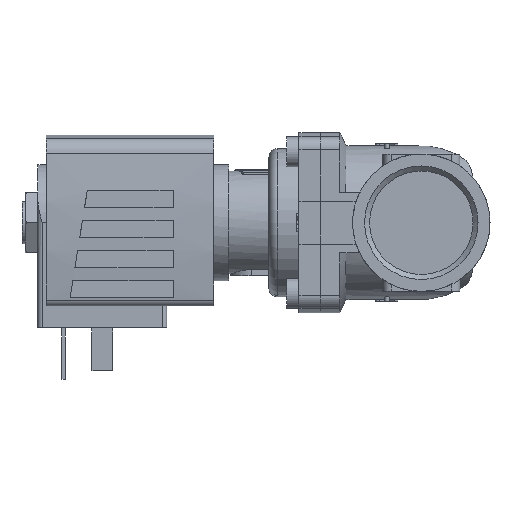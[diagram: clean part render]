
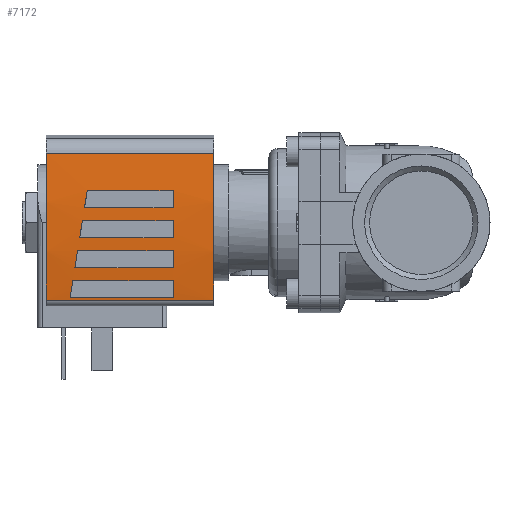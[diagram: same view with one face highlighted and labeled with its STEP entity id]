
A CAD part, left-side view. The second image highlights one B-rep face of the part: STEP entity #7172.
In plain terms, the highlighted cylindrical face has radius 130 mm (diameter 260 mm), a partial arc.
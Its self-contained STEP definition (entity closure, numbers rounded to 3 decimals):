
#88=ELLIPSE('',#7759,131.653,130.);
#89=ELLIPSE('',#7761,131.653,130.);
#90=ELLIPSE('',#7764,131.653,130.);
#91=ELLIPSE('',#7766,131.653,130.);
#248=CYLINDRICAL_SURFACE('',#7758,130.);
#661=LINE('',#11253,#1185);
#663=LINE('',#11273,#1187);
#664=LINE('',#11277,#1188);
#665=LINE('',#11278,#1189);
#666=LINE('',#11283,#1190);
#667=LINE('',#11288,#1191);
#668=LINE('',#11292,#1192);
#669=LINE('',#11296,#1193);
#670=LINE('',#11300,#1194);
#671=LINE('',#11304,#1195);
#1185=VECTOR('',#9234,1000.);
#1187=VECTOR('',#9256,1000.);
#1188=VECTOR('',#9259,1000.);
#1189=VECTOR('',#9260,1000.);
#1190=VECTOR('',#9263,1000.);
#1191=VECTOR('',#9268,1000.);
#1192=VECTOR('',#9271,1000.);
#1193=VECTOR('',#9274,1000.);
#1194=VECTOR('',#9277,1000.);
#1195=VECTOR('',#9280,1000.);
#2637=ORIENTED_EDGE('',*,*,#3708,.F.);
#2638=ORIENTED_EDGE('',*,*,#3709,.F.);
#2639=ORIENTED_EDGE('',*,*,#3710,.F.);
#2640=ORIENTED_EDGE('',*,*,#3711,.F.);
#2641=ORIENTED_EDGE('',*,*,#3712,.F.);
#2642=ORIENTED_EDGE('',*,*,#3713,.F.);
#2643=ORIENTED_EDGE('',*,*,#3714,.F.);
#2644=ORIENTED_EDGE('',*,*,#3715,.F.);
#2645=ORIENTED_EDGE('',*,*,#3716,.T.);
#2646=ORIENTED_EDGE('',*,*,#3717,.F.);
#2647=ORIENTED_EDGE('',*,*,#3702,.F.);
#2648=ORIENTED_EDGE('',*,*,#3699,.T.);
#2649=ORIENTED_EDGE('',*,*,#3718,.F.);
#2650=ORIENTED_EDGE('',*,*,#3719,.F.);
#2651=ORIENTED_EDGE('',*,*,#3720,.F.);
#2652=ORIENTED_EDGE('',*,*,#3721,.F.);
#2653=ORIENTED_EDGE('',*,*,#3722,.F.);
#2654=ORIENTED_EDGE('',*,*,#3723,.F.);
#2655=ORIENTED_EDGE('',*,*,#3724,.F.);
#2656=ORIENTED_EDGE('',*,*,#3725,.F.);
#3699=EDGE_CURVE('',#4339,#4338,#661,.T.);
#3702=EDGE_CURVE('',#4339,#4341,#4629,.T.);
#3708=EDGE_CURVE('',#4345,#4346,#88,.T.);
#3709=EDGE_CURVE('',#4347,#4345,#663,.F.);
#3710=EDGE_CURVE('',#4348,#4347,#4634,.T.);
#3711=EDGE_CURVE('',#4346,#4348,#664,.T.);
#3712=EDGE_CURVE('',#4349,#4350,#665,.T.);
#3713=EDGE_CURVE('',#4351,#4349,#89,.T.);
#3714=EDGE_CURVE('',#4352,#4351,#666,.F.);
#3715=EDGE_CURVE('',#4350,#4352,#4635,.T.);
#3716=EDGE_CURVE('',#4338,#4353,#4636,.T.);
#3717=EDGE_CURVE('',#4341,#4353,#667,.T.);
#3718=EDGE_CURVE('',#4354,#4355,#90,.T.);
#3719=EDGE_CURVE('',#4356,#4354,#668,.F.);
#3720=EDGE_CURVE('',#4357,#4356,#4637,.T.);
#3721=EDGE_CURVE('',#4355,#4357,#669,.T.);
#3722=EDGE_CURVE('',#4358,#4359,#91,.T.);
#3723=EDGE_CURVE('',#4360,#4358,#670,.F.);
#3724=EDGE_CURVE('',#4361,#4360,#4638,.T.);
#3725=EDGE_CURVE('',#4359,#4361,#671,.T.);
#4338=VERTEX_POINT('',#11252);
#4339=VERTEX_POINT('',#11254);
#4341=VERTEX_POINT('',#11260);
#4345=VERTEX_POINT('',#11271);
#4346=VERTEX_POINT('',#11272);
#4347=VERTEX_POINT('',#11274);
#4348=VERTEX_POINT('',#11276);
#4349=VERTEX_POINT('',#11279);
#4350=VERTEX_POINT('',#11280);
#4351=VERTEX_POINT('',#11282);
#4352=VERTEX_POINT('',#11284);
#4353=VERTEX_POINT('',#11287);
#4354=VERTEX_POINT('',#11290);
#4355=VERTEX_POINT('',#11291);
#4356=VERTEX_POINT('',#11293);
#4357=VERTEX_POINT('',#11295);
#4358=VERTEX_POINT('',#11298);
#4359=VERTEX_POINT('',#11299);
#4360=VERTEX_POINT('',#11301);
#4361=VERTEX_POINT('',#11303);
#4629=CIRCLE('',#7753,130.);
#4634=CIRCLE('',#7760,130.);
#4635=CIRCLE('',#7762,130.);
#4636=CIRCLE('',#7763,130.);
#4637=CIRCLE('',#7765,130.);
#4638=CIRCLE('',#7767,130.);
#4952=EDGE_LOOP('',(#2637,#2638,#2639,#2640));
#4953=EDGE_LOOP('',(#2641,#2642,#2643,#2644));
#4954=EDGE_LOOP('',(#2645,#2646,#2647,#2648));
#4955=EDGE_LOOP('',(#2649,#2650,#2651,#2652));
#4956=EDGE_LOOP('',(#2653,#2654,#2655,#2656));
#5344=FACE_BOUND('',#4952,.T.);
#5345=FACE_BOUND('',#4953,.T.);
#5346=FACE_BOUND('',#4954,.T.);
#5347=FACE_BOUND('',#4955,.T.);
#5348=FACE_BOUND('',#4956,.T.);
#7172=ADVANCED_FACE('',(#5344,#5345,#5346,#5347,#5348),#248,.T.);
#7753=AXIS2_PLACEMENT_3D('',#11259,#9241,#9242);
#7758=AXIS2_PLACEMENT_3D('',#11269,#9252,#9253);
#7759=AXIS2_PLACEMENT_3D('',#11270,#9254,#9255);
#7760=AXIS2_PLACEMENT_3D('',#11275,#9257,#9258);
#7761=AXIS2_PLACEMENT_3D('',#11281,#9261,#9262);
#7762=AXIS2_PLACEMENT_3D('',#11285,#9264,#9265);
#7763=AXIS2_PLACEMENT_3D('',#11286,#9266,#9267);
#7764=AXIS2_PLACEMENT_3D('',#11289,#9269,#9270);
#7765=AXIS2_PLACEMENT_3D('',#11294,#9272,#9273);
#7766=AXIS2_PLACEMENT_3D('',#11297,#9275,#9276);
#7767=AXIS2_PLACEMENT_3D('',#11302,#9278,#9279);
#9234=DIRECTION('',(0.,-1.,0.));
#9241=DIRECTION('',(0.,1.,0.));
#9242=DIRECTION('',(1.,0.,0.));
#9252=DIRECTION('',(0.,-1.,0.));
#9253=DIRECTION('',(0.,0.,-1.));
#9254=DIRECTION('',(-0.158,-0.987,0.));
#9255=DIRECTION('',(0.987,-0.158,0.));
#9256=DIRECTION('',(0.,-1.,0.));
#9257=DIRECTION('',(0.,1.,0.));
#9258=DIRECTION('',(0.,0.,1.));
#9259=DIRECTION('',(0.,-1.,0.));
#9260=DIRECTION('',(0.,-1.,0.));
#9261=DIRECTION('',(-0.158,-0.987,0.));
#9262=DIRECTION('',(0.987,-0.158,0.));
#9263=DIRECTION('',(0.,-1.,0.));
#9264=DIRECTION('',(0.,1.,0.));
#9265=DIRECTION('',(0.,0.,1.));
#9266=DIRECTION('',(0.,1.,0.));
#9267=DIRECTION('',(1.,0.,0.));
#9268=DIRECTION('',(0.,-1.,0.));
#9269=DIRECTION('',(-0.158,-0.987,0.));
#9270=DIRECTION('',(0.987,-0.158,0.));
#9271=DIRECTION('',(0.,-1.,0.));
#9272=DIRECTION('',(0.,1.,0.));
#9273=DIRECTION('',(0.,0.,1.));
#9274=DIRECTION('',(0.,-1.,0.));
#9275=DIRECTION('',(-0.158,-0.987,0.));
#9276=DIRECTION('',(0.987,-0.158,0.));
#9277=DIRECTION('',(0.,-1.,0.));
#9278=DIRECTION('',(0.,1.,0.));
#9279=DIRECTION('',(0.,0.,1.));
#9280=DIRECTION('',(0.,-1.,0.));
#11252=CARTESIAN_POINT('',(-18.071,-26.,14.738));
#11253=CARTESIAN_POINT('',(-18.071,13.,14.738));
#11254=CARTESIAN_POINT('',(-18.071,13.,14.738));
#11259=CARTESIAN_POINT('',(0.,13.,-114.));
#11260=CARTESIAN_POINT('',(16.195,13.,14.987));
#11269=CARTESIAN_POINT('',(0.,13.,-114.));
#11270=CARTESIAN_POINT('',(0.,4.7,-114.));
#11271=CARTESIAN_POINT('',(0.5,4.62,15.999));
#11272=CARTESIAN_POINT('',(-3.5,5.26,15.953));
#11273=CARTESIAN_POINT('',(0.5,13.,15.999));
#11274=CARTESIAN_POINT('',(0.5,-16.5,15.999));
#11275=CARTESIAN_POINT('',(0.,-16.5,-114.));
#11276=CARTESIAN_POINT('',(-3.5,-16.5,15.953));
#11277=CARTESIAN_POINT('',(-3.5,13.,15.953));
#11278=CARTESIAN_POINT('',(-17.5,13.,14.817));
#11279=CARTESIAN_POINT('',(-17.5,7.5,14.817));
#11280=CARTESIAN_POINT('',(-17.5,-16.5,14.817));
#11281=CARTESIAN_POINT('',(0.,4.7,-114.));
#11282=CARTESIAN_POINT('',(-13.5,6.86,15.297));
#11283=CARTESIAN_POINT('',(-13.5,13.,15.297));
#11284=CARTESIAN_POINT('',(-13.5,-16.5,15.297));
#11285=CARTESIAN_POINT('',(0.,-16.5,-114.));
#11286=CARTESIAN_POINT('',(0.,-26.,-114.));
#11287=CARTESIAN_POINT('',(16.195,-26.,14.987));
#11288=CARTESIAN_POINT('',(16.195,13.,14.987));
#11289=CARTESIAN_POINT('',(0.,4.7,-114.));
#11290=CARTESIAN_POINT('',(-6.5,5.74,15.837));
#11291=CARTESIAN_POINT('',(-10.5,6.38,15.575));
#11292=CARTESIAN_POINT('',(-6.5,13.,15.837));
#11293=CARTESIAN_POINT('',(-6.5,-16.5,15.837));
#11294=CARTESIAN_POINT('',(0.,-16.5,-114.));
#11295=CARTESIAN_POINT('',(-10.5,-16.5,15.575));
#11296=CARTESIAN_POINT('',(-10.5,13.,15.575));
#11297=CARTESIAN_POINT('',(0.,4.7,-114.));
#11298=CARTESIAN_POINT('',(7.5,3.5,15.783));
#11299=CARTESIAN_POINT('',(3.5,4.14,15.953));
#11300=CARTESIAN_POINT('',(7.5,13.,15.783));
#11301=CARTESIAN_POINT('',(7.5,-16.5,15.783));
#11302=CARTESIAN_POINT('',(0.,-16.5,-114.));
#11303=CARTESIAN_POINT('',(3.5,-16.5,15.953));
#11304=CARTESIAN_POINT('',(3.5,13.,15.953));
